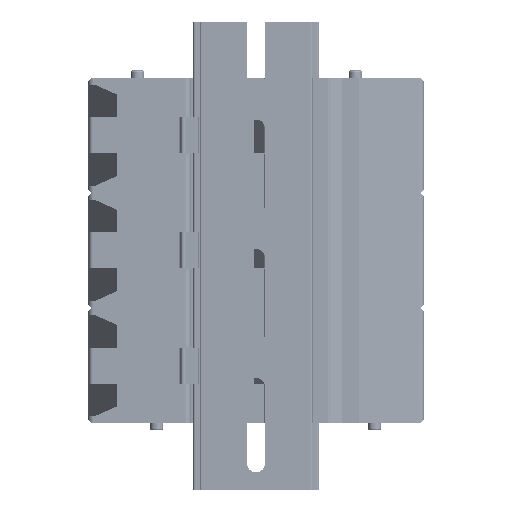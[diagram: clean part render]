
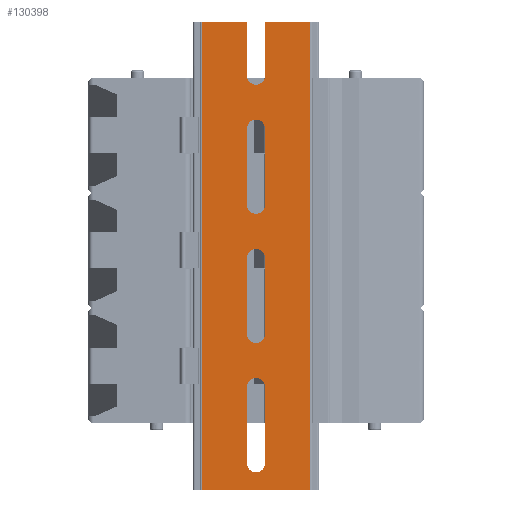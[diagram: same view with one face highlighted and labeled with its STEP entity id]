
A CAD part, front view. The second image highlights one B-rep face of the part: STEP entity #130398.
In plain terms, the highlighted planar face has unit normal (0, -1, 0).
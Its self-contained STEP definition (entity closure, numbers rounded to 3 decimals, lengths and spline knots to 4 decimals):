
#2534=CARTESIAN_POINT('',(0.6891,0.,1.0275));
#2535=DIRECTION('',(0.,-1.,0.));
#2536=DIRECTION('',(-1.,0.,0.));
#2537=AXIS2_PLACEMENT_3D('',#2534,#2535,#2536);
#2539=DIRECTION('',(0.,0.,1.));
#2540=VECTOR('',#2539,0.5866);
#2541=CARTESIAN_POINT('',(0.7876,0.,1.0275));
#2542=LINE('',#2541,#2540);
#2543=CARTESIAN_POINT('',(0.6891,0.,-1.7992));
#2544=DIRECTION('',(0.,-1.,0.));
#2545=DIRECTION('',(-1.,0.,0.));
#2546=AXIS2_PLACEMENT_3D('',#2543,#2544,#2545);
#2548=DIRECTION('',(0.,0.,1.));
#2549=VECTOR('',#2548,0.8346);
#2550=CARTESIAN_POINT('',(0.7876,0.,-1.7992));
#2551=LINE('',#2550,#2549);
#2552=CARTESIAN_POINT('',(0.6891,0.,-0.9646));
#2553=DIRECTION('',(0.,-1.,0.));
#2554=DIRECTION('',(1.,0.,0.));
#2555=AXIS2_PLACEMENT_3D('',#2552,#2553,#2554);
#2557=DIRECTION('',(0.,0.,-1.));
#2558=VECTOR('',#2557,0.8346);
#2559=CARTESIAN_POINT('',(0.5907,0.,-0.9646));
#2560=LINE('',#2559,#2558);
#2561=CARTESIAN_POINT('',(0.6891,0.,-0.3858));
#2562=DIRECTION('',(0.,-1.,0.));
#2563=DIRECTION('',(-1.,0.,0.));
#2564=AXIS2_PLACEMENT_3D('',#2561,#2562,#2563);
#2566=DIRECTION('',(0.,0.,1.));
#2567=VECTOR('',#2566,0.8346);
#2568=CARTESIAN_POINT('',(0.7876,0.,-0.3858));
#2569=LINE('',#2568,#2567);
#2570=CARTESIAN_POINT('',(0.6891,0.,0.4488));
#2571=DIRECTION('',(0.,-1.,0.));
#2572=DIRECTION('',(1.,0.,0.));
#2573=AXIS2_PLACEMENT_3D('',#2570,#2571,#2572);
#2575=DIRECTION('',(0.,0.,-1.));
#2576=VECTOR('',#2575,0.8346);
#2577=CARTESIAN_POINT('',(0.5907,0.,0.4488));
#2578=LINE('',#2577,#2576);
#2579=CARTESIAN_POINT('',(0.6891,0.,-3.2126));
#2580=DIRECTION('',(0.,-1.,0.));
#2581=DIRECTION('',(-1.,0.,0.));
#2582=AXIS2_PLACEMENT_3D('',#2579,#2580,#2581);
#2584=DIRECTION('',(0.,0.,1.));
#2585=VECTOR('',#2584,0.8346);
#2586=CARTESIAN_POINT('',(0.7876,0.,-3.2126));
#2587=LINE('',#2586,#2585);
#2588=CARTESIAN_POINT('',(0.6891,0.,-2.378));
#2589=DIRECTION('',(0.,-1.,0.));
#2590=DIRECTION('',(1.,0.,0.));
#2591=AXIS2_PLACEMENT_3D('',#2588,#2589,#2590);
#2593=DIRECTION('',(0.,0.,-1.));
#2594=VECTOR('',#2593,0.8346);
#2595=CARTESIAN_POINT('',(0.5907,0.,-2.378));
#2596=LINE('',#2595,#2594);
#2664=DIRECTION('',(-1.,0.,0.));
#2665=VECTOR('',#2664,0.4961);
#2666=CARTESIAN_POINT('',(1.2836,0.,
1.6142));
#2667=LINE('',#2666,#2665);
#2726=DIRECTION('',(1.,0.,0.));
#2727=VECTOR('',#2726,1.189);
#2728=CARTESIAN_POINT('',(0.0946,0.,-3.5039));
#2729=LINE('',#2728,#2727);
#7888=DIRECTION('',(0.,0.,1.));
#7889=VECTOR('',#7888,5.1181);
#7890=CARTESIAN_POINT('',(1.2836,0.,
-3.5039));
#7891=LINE('',#7890,#7889);
#71513=DIRECTION('',(-1.,0.,0.));
#71514=VECTOR('',#71513,0.4961);
#71515=CARTESIAN_POINT('',(0.5907,0.,1.6142));
#71516=LINE('',#71515,#71514);
#71580=DIRECTION('',(0.,0.,1.));
#71581=VECTOR('',#71580,0.5866);
#71582=CARTESIAN_POINT('',(0.5907,0.,1.0275));
#71583=LINE('',#71582,#71581);
#71592=DIRECTION('',(0.,0.,-1.));
#71593=VECTOR('',#71592,5.1181);
#71594=CARTESIAN_POINT('',(0.0946,0.,1.6142));
#71595=LINE('',#71594,#71593);
#103306=CARTESIAN_POINT('',(1.2836,0.,
-3.5039));
#103307=VERTEX_POINT('',#103306);
#103308=CARTESIAN_POINT('',(1.2836,0.,
1.6142));
#103309=VERTEX_POINT('',#103308);
#116236=CARTESIAN_POINT('',(0.0946,0.,-3.5039));
#116237=VERTEX_POINT('',#116236);
#119461=CARTESIAN_POINT('',(0.7876,0.,1.6142));
#119463=VERTEX_POINT('',#119461);
#119479=CARTESIAN_POINT('',(0.7876,0.,1.0275));
#119480=VERTEX_POINT('',#119479);
#119483=CARTESIAN_POINT('',(0.5907,0.,1.0275));
#119484=VERTEX_POINT('',#119483);
#119485=CARTESIAN_POINT('',(0.0946,0.,1.6142));
#119486=VERTEX_POINT('',#119485);
#119487=CARTESIAN_POINT('',(0.5907,0.,1.6142));
#119488=VERTEX_POINT('',#119487);
#119489=CARTESIAN_POINT('',(0.5907,0.,-1.7992));
#119490=CARTESIAN_POINT('',(0.7876,0.,-1.7992));
#119491=VERTEX_POINT('',#119489);
#119492=VERTEX_POINT('',#119490);
#119493=CARTESIAN_POINT('',(0.7876,0.,-0.9646));
#119494=VERTEX_POINT('',#119493);
#119495=CARTESIAN_POINT('',(0.5907,0.,-0.9646));
#119496=VERTEX_POINT('',#119495);
#119497=CARTESIAN_POINT('',(0.5907,0.,-0.3858));
#119498=CARTESIAN_POINT('',(0.7876,0.,-0.3858));
#119499=VERTEX_POINT('',#119497);
#119500=VERTEX_POINT('',#119498);
#119501=CARTESIAN_POINT('',(0.7876,0.,0.4488));
#119502=VERTEX_POINT('',#119501);
#119503=CARTESIAN_POINT('',(0.5907,0.,0.4488));
#119504=VERTEX_POINT('',#119503);
#119505=CARTESIAN_POINT('',(0.5907,0.,-3.2126));
#119506=CARTESIAN_POINT('',(0.7876,0.,-3.2126));
#119507=VERTEX_POINT('',#119505);
#119508=VERTEX_POINT('',#119506);
#119509=CARTESIAN_POINT('',(0.7876,0.,-2.378));
#119510=VERTEX_POINT('',#119509);
#119511=CARTESIAN_POINT('',(0.5907,0.,-2.378));
#119512=VERTEX_POINT('',#119511);
#130346=CARTESIAN_POINT('',(0.6891,0.,-0.9449));
#130347=DIRECTION('',(0.,1.,0.));
#130348=DIRECTION('',(1.,0.,0.));
#130349=AXIS2_PLACEMENT_3D('',#130346,#130347,#130348);
#130350=PLANE('',#130349);
#130351=ORIENTED_EDGE('',*,*,#130336,.T.);
#130353=ORIENTED_EDGE('',*,*,#130352,.T.);
#130355=ORIENTED_EDGE('',*,*,#130354,.F.);
#130357=ORIENTED_EDGE('',*,*,#130356,.F.);
#130359=ORIENTED_EDGE('',*,*,#130358,.F.);
#130361=ORIENTED_EDGE('',*,*,#130360,.F.);
#130363=ORIENTED_EDGE('',*,*,#130362,.F.);
#130365=ORIENTED_EDGE('',*,*,#130364,.F.);
#130366=EDGE_LOOP('',(#130351,#130353,#130355,#130357,#130359,#130361,#130363,
#130365));
#130367=FACE_OUTER_BOUND('',#130366,.F.);
#130369=ORIENTED_EDGE('',*,*,#130368,.T.);
#130371=ORIENTED_EDGE('',*,*,#130370,.T.);
#130373=ORIENTED_EDGE('',*,*,#130372,.T.);
#130375=ORIENTED_EDGE('',*,*,#130374,.T.);
#130376=EDGE_LOOP('',(#130369,#130371,#130373,#130375));
#130377=FACE_BOUND('',#130376,.F.);
#130379=ORIENTED_EDGE('',*,*,#130378,.T.);
#130381=ORIENTED_EDGE('',*,*,#130380,.T.);
#130383=ORIENTED_EDGE('',*,*,#130382,.T.);
#130385=ORIENTED_EDGE('',*,*,#130384,.T.);
#130386=EDGE_LOOP('',(#130379,#130381,#130383,#130385));
#130387=FACE_BOUND('',#130386,.F.);
#130389=ORIENTED_EDGE('',*,*,#130388,.T.);
#130391=ORIENTED_EDGE('',*,*,#130390,.T.);
#130393=ORIENTED_EDGE('',*,*,#130392,.T.);
#130395=ORIENTED_EDGE('',*,*,#130394,.T.);
#130396=EDGE_LOOP('',(#130389,#130391,#130393,#130395));
#130397=FACE_BOUND('',#130396,.F.);
#130398=ADVANCED_FACE('',(#130367,#130377,#130387,#130397),#130350,.F.);
#2538=CIRCLE('',#2537,0.0984);
#2547=CIRCLE('',#2546,0.0984);
#2556=CIRCLE('',#2555,0.0984);
#2565=CIRCLE('',#2564,0.0984);
#2574=CIRCLE('',#2573,0.0984);
#2583=CIRCLE('',#2582,0.0984);
#2592=CIRCLE('',#2591,0.0984);
#130336=EDGE_CURVE('',#119484,#119480,#2538,.T.);
#130352=EDGE_CURVE('',#119480,#119463,#2542,.T.);
#130354=EDGE_CURVE('',#103309,#119463,#2667,.T.);
#130356=EDGE_CURVE('',#103307,#103309,#7891,.T.);
#130358=EDGE_CURVE('',#116237,#103307,#2729,.T.);
#130360=EDGE_CURVE('',#119486,#116237,#71595,.T.);
#130362=EDGE_CURVE('',#119488,#119486,#71516,.T.);
#130364=EDGE_CURVE('',#119484,#119488,#71583,.T.);
#130368=EDGE_CURVE('',#119491,#119492,#2547,.T.);
#130370=EDGE_CURVE('',#119492,#119494,#2551,.T.);
#130372=EDGE_CURVE('',#119494,#119496,#2556,.T.);
#130374=EDGE_CURVE('',#119496,#119491,#2560,.T.);
#130378=EDGE_CURVE('',#119499,#119500,#2565,.T.);
#130380=EDGE_CURVE('',#119500,#119502,#2569,.T.);
#130382=EDGE_CURVE('',#119502,#119504,#2574,.T.);
#130384=EDGE_CURVE('',#119504,#119499,#2578,.T.);
#130388=EDGE_CURVE('',#119507,#119508,#2583,.T.);
#130390=EDGE_CURVE('',#119508,#119510,#2587,.T.);
#130392=EDGE_CURVE('',#119510,#119512,#2592,.T.);
#130394=EDGE_CURVE('',#119512,#119507,#2596,.T.);
